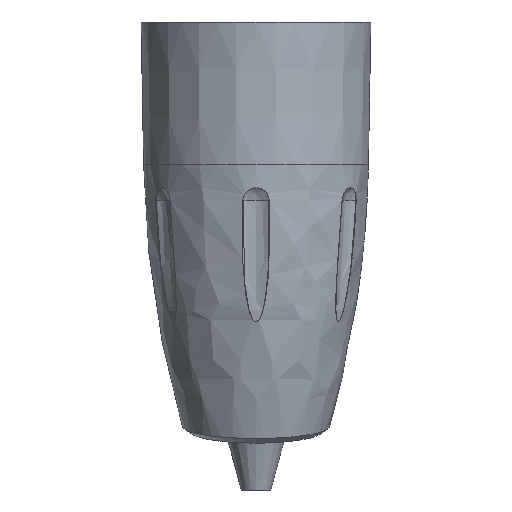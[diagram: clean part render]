
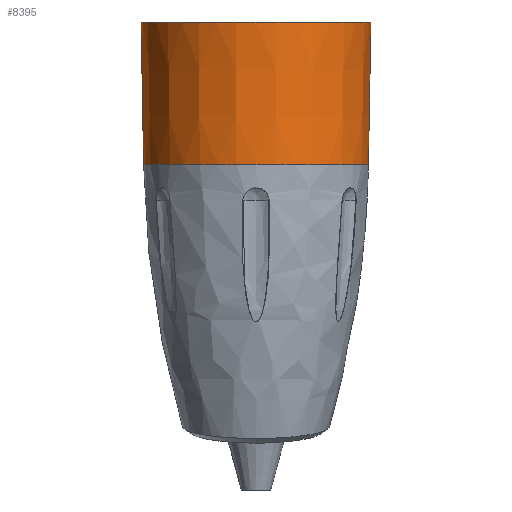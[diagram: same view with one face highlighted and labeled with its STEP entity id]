
A CAD part, front view. The second image highlights one B-rep face of the part: STEP entity #8395.
In plain terms, the highlighted conical face has half-angle 1 degrees and reference radius 18.5 mm.
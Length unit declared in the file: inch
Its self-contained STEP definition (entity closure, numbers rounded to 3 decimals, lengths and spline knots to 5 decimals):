
#350=FACE_BOUND('',#1630,.T.);
#722=CIRCLE('',#9236,0.71254);
#723=CIRCLE('',#9237,0.71254);
#728=CIRCLE('',#9245,0.72835);
#1024=CONICAL_SURFACE('',#9244,0.72835,0.017);
#1095=FACE_OUTER_BOUND('',#1629,.T.);
#1629=EDGE_LOOP('',(#5861,#5862,#5863,#5864,#5865));
#1630=EDGE_LOOP('',(#5866,#5867));
#2193=LINE('',#15093,#2774);
#2774=VECTOR('',#10115,0.72835);
#3345=B_SPLINE_CURVE_WITH_KNOTS('',3,(#12525,#12526,#12527,#12528,#12529,
#12530,#12531,#12532,#12533,#12534,#12535,#12536,#12537,#12538,#12539,#12540,
#12541,#12542,#12543,#12544),.UNSPECIFIED.,.F.,.F.,(4,2,2,2,2,2,2,2,2,4),
(-0.47117,-0.41864,-0.35994,-0.3024,
-0.24457,-0.18405,-0.12662,-0.06997,
-0.03521,0.),.UNSPECIFIED.);
#3398=B_SPLINE_CURVE_WITH_KNOTS('',3,(#15094,#15095,#15096,#15097,#15098,
#15099,#15100,#15101,#15102,#15103,#15104,#15105,#15106,#15107,#15108,#15109,
#15110,#15111,#15112,#15113),.UNSPECIFIED.,.F.,.F.,(4,2,2,2,2,2,2,2,2,4),
(-0.46328,-0.41075,-0.3575,-0.30218,
-0.24524,-0.18415,-0.12593,-0.06878,
-0.03457,0.),.UNSPECIFIED.);
#3634=VERTEX_POINT('',#12523);
#3635=VERTEX_POINT('',#12524);
#3675=VERTEX_POINT('',#14024);
#3676=VERTEX_POINT('',#14025);
#3709=VERTEX_POINT('',#15091);
#4452=EDGE_CURVE('',#3634,#3635,#3345,.T.);
#4504=EDGE_CURVE('',#3675,#3676,#722,.T.);
#4505=EDGE_CURVE('',#3676,#3675,#723,.T.);
#4542=EDGE_CURVE('',#3709,#3709,#728,.T.);
#4543=EDGE_CURVE('',#3709,#3675,#2193,.T.);
#4544=EDGE_CURVE('',#3635,#3634,#3398,.T.);
#5861=ORIENTED_EDGE('',*,*,#4542,.T.);
#5862=ORIENTED_EDGE('',*,*,#4543,.T.);
#5863=ORIENTED_EDGE('',*,*,#4504,.T.);
#5864=ORIENTED_EDGE('',*,*,#4505,.T.);
#5865=ORIENTED_EDGE('',*,*,#4543,.F.);
#5866=ORIENTED_EDGE('',*,*,#4544,.T.);
#5867=ORIENTED_EDGE('',*,*,#4452,.T.);
#8395=ADVANCED_FACE('',(#1095,#350),#1024,.T.);
#9236=AXIS2_PLACEMENT_3D('',#14026,#10095,#10096);
#9237=AXIS2_PLACEMENT_3D('',#14027,#10097,#10098);
#9244=AXIS2_PLACEMENT_3D('',#15090,#10111,#10112);
#9245=AXIS2_PLACEMENT_3D('',#15092,#10113,#10114);
#10095=DIRECTION('center_axis',(0.,0.,1.));
#10096=DIRECTION('ref_axis',(1.,0.,0.));
#10097=DIRECTION('center_axis',(0.,0.,1.));
#10098=DIRECTION('ref_axis',(1.,0.,0.));
#10111=DIRECTION('center_axis',(0.,0.,1.));
#10112=DIRECTION('ref_axis',(-1.,0.,0.));
#10113=DIRECTION('center_axis',(0.,0.,-1.));
#10114=DIRECTION('ref_axis',(-1.,0.,0.));
#10115=DIRECTION('',(-0.017,0.,-1.));
#12523=CARTESIAN_POINT('',(0.04485,0.71737,-0.67044));
#12524=CARTESIAN_POINT('',(-0.04491,0.71587,-0.75603));
#12525=CARTESIAN_POINT('Ctrl Pts',(0.04485,0.71737,
-0.67044));
#12526=CARTESIAN_POINT('Ctrl Pts',(0.03918,0.71782,
-0.66512));
#12527=CARTESIAN_POINT('Ctrl Pts',(0.03255,0.71824,
-0.66089));
#12528=CARTESIAN_POINT('Ctrl Pts',(0.01729,0.71889,
-0.65462));
#12529=CARTESIAN_POINT('Ctrl Pts',(0.00863,0.71908,
-0.65294));
#12530=CARTESIAN_POINT('Ctrl Pts',(-0.00867,0.71908,
-0.65296));
#12531=CARTESIAN_POINT('Ctrl Pts',(-0.01714,0.71889,
-0.65461));
#12532=CARTESIAN_POINT('Ctrl Pts',(-0.03297,0.71823,
-0.66102));
#12533=CARTESIAN_POINT('Ctrl Pts',(-0.03973,0.71778,
-0.66557));
#12534=CARTESIAN_POINT('Ctrl Pts',(-0.05088,0.71689,
-0.67619));
#12535=CARTESIAN_POINT('Ctrl Pts',(-0.05552,0.71642,
-0.6827));
#12536=CARTESIAN_POINT('Ctrl Pts',(-0.06176,0.71566,
-0.69677));
#12537=CARTESIAN_POINT('Ctrl Pts',(-0.06346,0.71538,
-0.70416));
#12538=CARTESIAN_POINT('Ctrl Pts',(-0.06387,0.71508,
-0.7191));
#12539=CARTESIAN_POINT('Ctrl Pts',(-0.06263,0.71506,
-0.72646));
#12540=CARTESIAN_POINT('Ctrl Pts',(-0.05844,0.71522,
-0.73767));
#12541=CARTESIAN_POINT('Ctrl Pts',(-0.05635,0.71532,
-0.74173));
#12542=CARTESIAN_POINT('Ctrl Pts',(-0.05126,0.71557,
-0.74934));
#12543=CARTESIAN_POINT('Ctrl Pts',(-0.04828,0.71572,
-0.75286));
#12544=CARTESIAN_POINT('Ctrl Pts',(-0.04491,0.71587,
-0.75603));
#14024=CARTESIAN_POINT('',(0.71254,0.,-1.02756));
#14025=CARTESIAN_POINT('',(-0.71254,0.,-1.02756));
#14026=CARTESIAN_POINT('Origin',(0.,0.,-1.02756));
#14027=CARTESIAN_POINT('Origin',(0.,0.,-1.02756));
#15090=CARTESIAN_POINT('Origin',(0.,0.,-0.12205));
#15091=CARTESIAN_POINT('',(0.72835,0.,-0.12205));
#15092=CARTESIAN_POINT('Origin',(0.,0.,-0.12205));
#15093=CARTESIAN_POINT('',(0.72835,0.,-0.12205));
#15094=CARTESIAN_POINT('Ctrl Pts',(-0.04491,0.71587,
-0.75603));
#15095=CARTESIAN_POINT('Ctrl Pts',(-0.03898,0.71615,
-0.76161));
#15096=CARTESIAN_POINT('Ctrl Pts',(-0.03202,0.71643,-0.76598));
#15097=CARTESIAN_POINT('Ctrl Pts',(-0.01675,0.71685,
-0.77198));
#15098=CARTESIAN_POINT('Ctrl Pts',(-0.00855,0.71697,
-0.77354));
#15099=CARTESIAN_POINT('Ctrl Pts',(0.00831,0.71698,
-0.77361));
#15100=CARTESIAN_POINT('Ctrl Pts',(0.01684,0.71685,
-0.77201));
#15101=CARTESIAN_POINT('Ctrl Pts',(0.03302,0.7164,
-0.76552));
#15102=CARTESIAN_POINT('Ctrl Pts',(0.03982,0.71611,
-0.76088));
#15103=CARTESIAN_POINT('Ctrl Pts',(0.05094,0.71559,
-0.75029));
#15104=CARTESIAN_POINT('Ctrl Pts',(0.05561,0.71534,
-0.74371));
#15105=CARTESIAN_POINT('Ctrl Pts',(0.06187,0.71508,
-0.72944));
#15106=CARTESIAN_POINT('Ctrl Pts',(0.06353,0.71506,
-0.72197));
#15107=CARTESIAN_POINT('Ctrl Pts',(0.06382,0.7153,
-0.7069));
#15108=CARTESIAN_POINT('Ctrl Pts',(0.0625,0.71555,
-0.69951));
#15109=CARTESIAN_POINT('Ctrl Pts',(0.0582,0.7161,
-0.68839));
#15110=CARTESIAN_POINT('Ctrl Pts',(0.05612,0.71634,
-0.68442));
#15111=CARTESIAN_POINT('Ctrl Pts',(0.05109,0.71685,
-0.67698));
#15112=CARTESIAN_POINT('Ctrl Pts',(0.04815,0.71711,
-0.67354));
#15113=CARTESIAN_POINT('Ctrl Pts',(0.04485,0.71737,
-0.67044));
